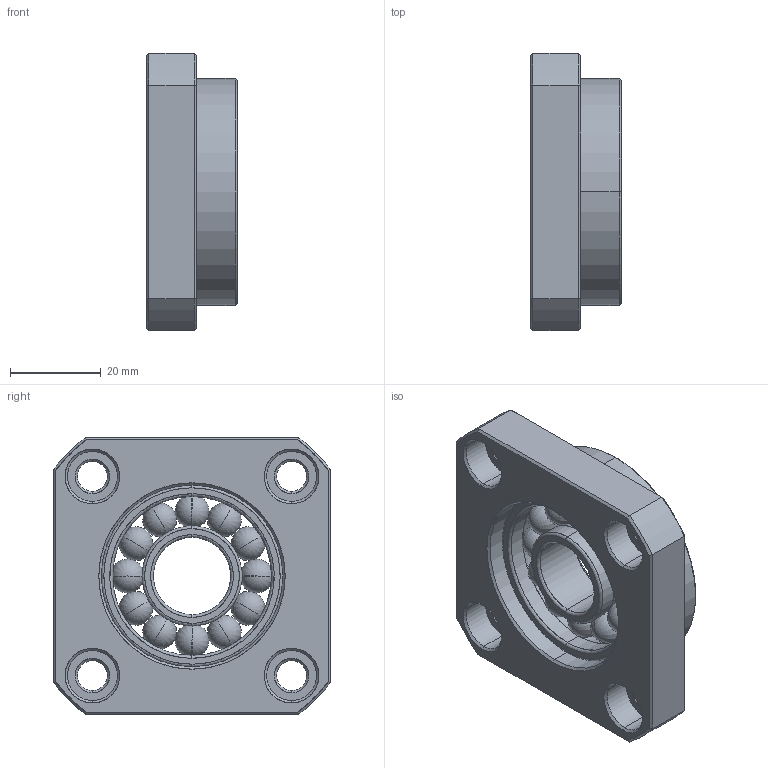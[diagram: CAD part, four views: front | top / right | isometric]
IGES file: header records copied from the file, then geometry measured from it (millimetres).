
Start section: SolidWorks IGES file using analytic representation for surfaces
Bounding box: 20 x 61 x 61 mm (x, y, z)
Surface area: 17644 mm2 (no closed solid volume)
Topology: 0 solids, 0 shells, 141 faces, 1696 edges, 1648 vertices
Faces by surface type: revolution 96, bspline 45
